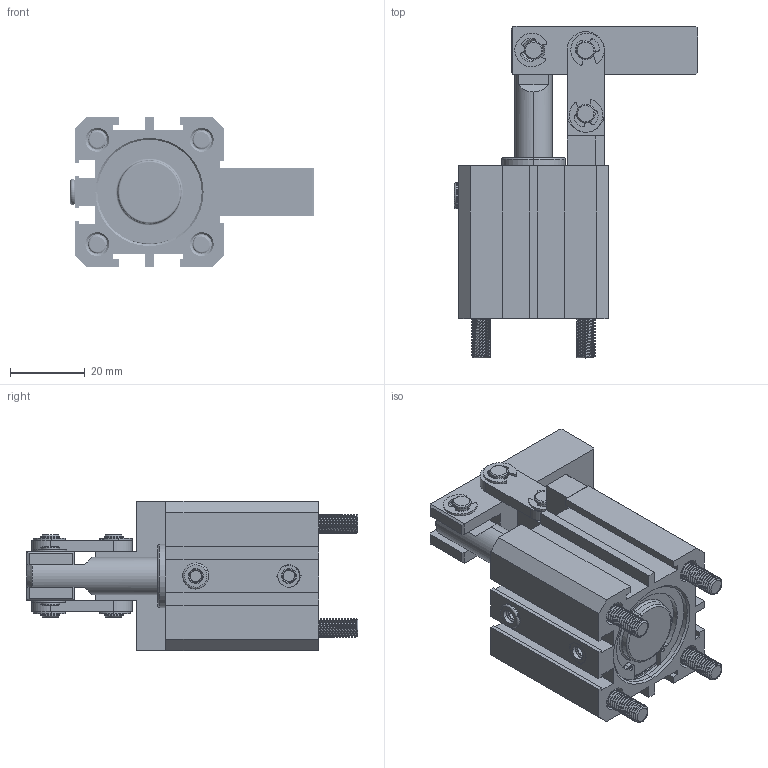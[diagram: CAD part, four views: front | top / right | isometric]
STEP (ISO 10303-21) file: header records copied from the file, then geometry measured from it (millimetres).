
FILE_DESCRIPTION(('FreeCAD Model'),'2;1');
FILE_NAME('Open CASCADE Shape Model','2021-08-17T17:04:46',('Author'),( ''),'Open CASCADE STEP processor 7.4','FreeCAD','Unknown');
FILE_SCHEMA(('AUTOMOTIVE_DESIGN { 1 0 10303 214 1 1 1 1 }'));
Length unit declared in the file: millimetre
Products named in the file (17): PLP-25; SOLID001; SOLID002; SOLID003; SOLID004; SOLID005; SOLID006; SOLID007; SOLID009; SOLID010; SOLID012; SOLID013; SOLID016; SOLID018; SOLID024; SOLID025; SOLID027
Assembly tree (27 placements, depth 2):
  PLP-25
    SOLID001
    SOLID002  x2
    SOLID003  x6
    SOLID004  x2
    SOLID005
    SOLID006
    SOLID007
    SOLID009
    SOLID010  x2
    SOLID012  x2
    SOLID013  x2
    SOLID016  x2
    SOLID018
    SOLID024
    SOLID025
    SOLID027
Bounding box: 65.2 x 89 x 40 mm (x, y, z)
Volume: 58020.1 mm3; surface area: 42927.4 mm2
Topology: 27 solids, 27 shells, 1112 faces, 2813 edges, 1816 vertices
Faces by surface type: cylinder 592, plane 288, torus 130, cone 79, bspline 23
Entity records: 68759 total; most frequent: CARTESIAN_POINT 33168, DIRECTION 6479, ORIENTED_EDGE 3582, PCURVE 3582, DEFINITIONAL_REPRESENTATION 3582, LINE 3482, VECTOR 3482, EDGE_CURVE 1791
